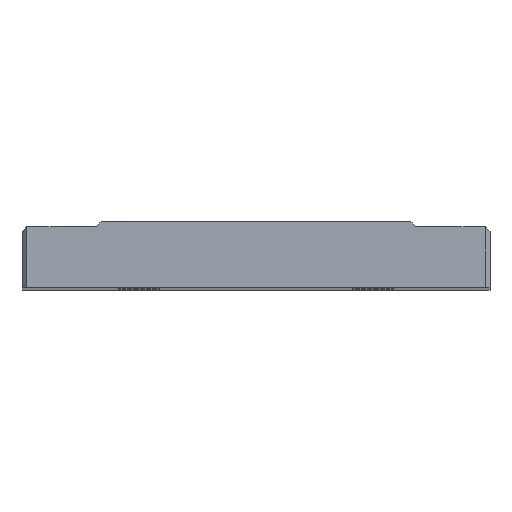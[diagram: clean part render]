
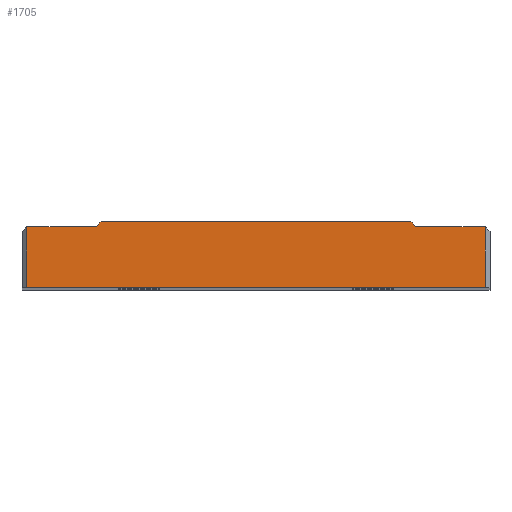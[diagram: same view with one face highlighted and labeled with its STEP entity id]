
A CAD part, top view. The second image highlights one B-rep face of the part: STEP entity #1705.
In plain terms, the highlighted planar face has unit normal (0, 0, 1).
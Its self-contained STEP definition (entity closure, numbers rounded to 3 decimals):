
#15 = ORIENTED_EDGE ( 'NONE', *, *, #3075, .T. ) ;
#106 = ORIENTED_EDGE ( 'NONE', *, *, #4854, .T. ) ;
#166 = DIRECTION ( 'NONE',  ( 0., -1., 0. ) ) ;
#208 = ORIENTED_EDGE ( 'NONE', *, *, #1228, .F. ) ;
#232 = VERTEX_POINT ( 'NONE', #2873 ) ;
#257 = CARTESIAN_POINT ( 'NONE',  ( -95.95, 0., 315. ) ) ;
#263 = VERTEX_POINT ( 'NONE', #1701 ) ;
#389 = VECTOR ( 'NONE', #3313, 1000. ) ;
#563 = LINE ( 'NONE', #2175, #658 ) ;
#658 = VECTOR ( 'NONE', #166, 1000. ) ;
#688 = DIRECTION ( 'NONE',  ( -1., 0., 0. ) ) ;
#710 = LINE ( 'NONE', #257, #3253 ) ;
#771 = VERTEX_POINT ( 'NONE', #3353 ) ;
#789 = CARTESIAN_POINT ( 'NONE',  ( -63.5, 27., 315. ) ) ;
#880 = CARTESIAN_POINT ( 'NONE',  ( 65.5, 25., 315. ) ) ;
#953 = CARTESIAN_POINT ( 'NONE',  ( -95.95, 27., 315. ) ) ;
#1028 = VERTEX_POINT ( 'NONE', #789 ) ;
#1094 = EDGE_CURVE ( 'NONE', #263, #4674, #1366, .T. ) ;
#1127 = DIRECTION ( 'NONE',  ( -1., 0., 0. ) ) ;
#1148 = AXIS2_PLACEMENT_3D ( 'NONE', #2635, #3475, #3526 ) ;
#1228 = EDGE_CURVE ( 'NONE', #1876, #2824, #710, .T. ) ;
#1289 = CARTESIAN_POINT ( 'NONE',  ( 63.5, 27., 315. ) ) ;
#1292 = EDGE_CURVE ( 'NONE', #3505, #771, #3113, .T. ) ;
#1320 = LINE ( 'NONE', #880, #2506 ) ;
#1362 = CARTESIAN_POINT ( 'NONE',  ( -93.95, 0., 315. ) ) ;
#1366 = LINE ( 'NONE', #4972, #389 ) ;
#1701 = CARTESIAN_POINT ( 'NONE',  ( 65.5, 25., 315. ) ) ;
#1705 = ADVANCED_FACE ( 'NONE', ( #5124 ), #3944, .T. ) ;
#1714 = LINE ( 'NONE', #953, #3883 ) ;
#1724 = DIRECTION ( 'NONE',  ( -1., 0., 0. ) ) ;
#1733 = ORIENTED_EDGE ( 'NONE', *, *, #2427, .T. ) ;
#1876 = VERTEX_POINT ( 'NONE', #3637 ) ;
#1941 = VECTOR ( 'NONE', #2714, 1000. ) ;
#1946 = LINE ( 'NONE', #3140, #1941 ) ;
#2057 = EDGE_CURVE ( 'NONE', #771, #2824, #563, .T. ) ;
#2165 = ORIENTED_EDGE ( 'NONE', *, *, #2057, .T. ) ;
#2175 = CARTESIAN_POINT ( 'NONE',  ( -93.95, 0., 315. ) ) ;
#2251 = LINE ( 'NONE', #2670, #5069 ) ;
#2427 = EDGE_CURVE ( 'NONE', #232, #263, #1320, .T. ) ;
#2506 = VECTOR ( 'NONE', #1724, 1000. ) ;
#2635 = CARTESIAN_POINT ( 'NONE',  ( 0., 0., 315. ) ) ;
#2670 = CARTESIAN_POINT ( 'NONE',  ( 93.95, 23., 315. ) ) ;
#2714 = DIRECTION ( 'NONE',  ( -0.707, -0.707, 0. ) ) ;
#2824 = VERTEX_POINT ( 'NONE', #1362 ) ;
#2873 = CARTESIAN_POINT ( 'NONE',  ( 93.95, 25., 315. ) ) ;
#3075 = EDGE_CURVE ( 'NONE', #1876, #232, #2251, .T. ) ;
#3113 = LINE ( 'NONE', #4296, #5126 ) ;
#3140 = CARTESIAN_POINT ( 'NONE',  ( -63.5, 27., 315. ) ) ;
#3253 = VECTOR ( 'NONE', #1127, 1000. ) ;
#3259 = ORIENTED_EDGE ( 'NONE', *, *, #1094, .T. ) ;
#3313 = DIRECTION ( 'NONE',  ( -0.707, 0.707, 0. ) ) ;
#3353 = CARTESIAN_POINT ( 'NONE',  ( -93.95, 25., 315. ) ) ;
#3471 = ORIENTED_EDGE ( 'NONE', *, *, #5053, .T. ) ;
#3475 = DIRECTION ( 'NONE',  ( 0., 0., 1. ) ) ;
#3505 = VERTEX_POINT ( 'NONE', #4194 ) ;
#3526 = DIRECTION ( 'NONE',  ( 1., 0., 0. ) ) ;
#3637 = CARTESIAN_POINT ( 'NONE',  ( 93.95, 0., 315. ) ) ;
#3883 = VECTOR ( 'NONE', #4162, 1000. ) ;
#3944 = PLANE ( 'NONE',  #1148 ) ;
#4162 = DIRECTION ( 'NONE',  ( -1., 0., 0. ) ) ;
#4194 = CARTESIAN_POINT ( 'NONE',  ( -65.5, 25., 315. ) ) ;
#4296 = CARTESIAN_POINT ( 'NONE',  ( -65.5, 25., 315. ) ) ;
#4674 = VERTEX_POINT ( 'NONE', #1289 ) ;
#4854 = EDGE_CURVE ( 'NONE', #1028, #3505, #1946, .T. ) ;
#4860 = ORIENTED_EDGE ( 'NONE', *, *, #1292, .T. ) ;
#4939 = EDGE_LOOP ( 'NONE', ( #4860, #2165, #208, #15, #1733, #3259, #3471, #106 ) ) ;
#4972 = CARTESIAN_POINT ( 'NONE',  ( 63.5, 27., 315. ) ) ;
#5053 = EDGE_CURVE ( 'NONE', #4674, #1028, #1714, .T. ) ;
#5069 = VECTOR ( 'NONE', #5096, 1000. ) ;
#5096 = DIRECTION ( 'NONE',  ( 0., 1., 0. ) ) ;
#5124 = FACE_OUTER_BOUND ( 'NONE', #4939, .T. ) ;
#5126 = VECTOR ( 'NONE', #688, 1000. ) ;
